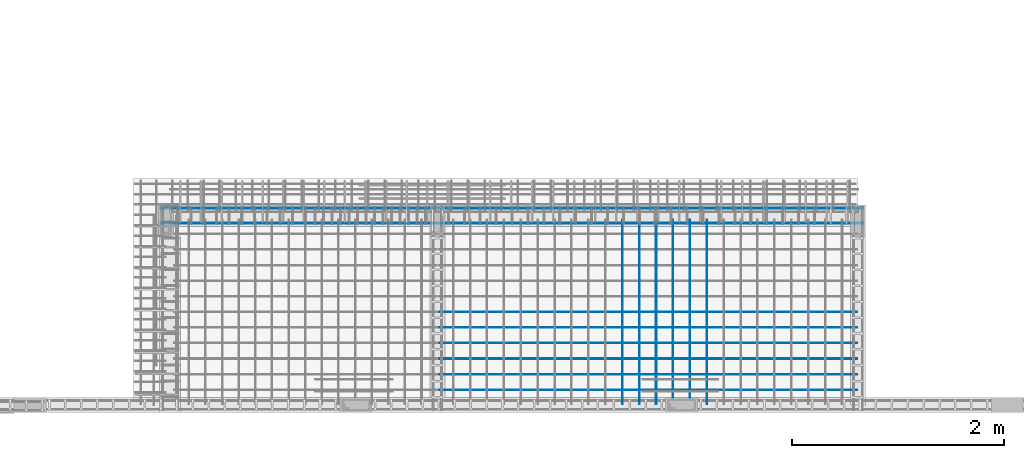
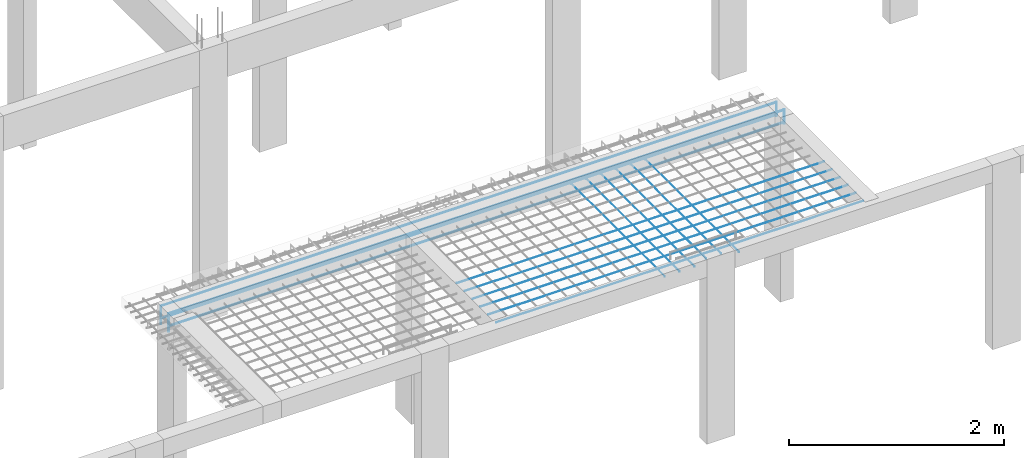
# One storey, part 40 of 236: 16 reinforcing bars.
"""IFC4 building model written with IfcOpenShell, lengths in centimetres."""

from ifc_helpers import new_model, entity, si_unit, derived_unit, frame, origin_with_axes, place, context, project, spatial, element, save


model = new_model("IFC4")

# Units and contexts
model_context = context("Model", 3, precision=1e-05, world=origin_with_axes(), identifier="Body")
ifc_project = project(units=[si_unit("LENGTHUNIT", "METRE", prefix="CENTI"), si_unit("VOLUMEUNIT", "CUBIC_METRE"), si_unit("AREAUNIT", "SQUARE_METRE"), si_unit("POWERUNIT", "WATT"), si_unit("LUMINOUSFLUXUNIT", "LUMEN"), si_unit("ELECTRICCURRENTUNIT", "AMPERE"), si_unit("PRESSUREUNIT", "PASCAL", prefix="KILO"), si_unit("MASSUNIT", "GRAM", prefix="KILO"), si_unit("PLANEANGLEUNIT", "RADIAN"), derived_unit("VOLUMETRICFLOWRATEUNIT", [(si_unit("LENGTHUNIT", "METRE"), 3), (si_unit("TIMEUNIT", "SECOND"), -1)])], contexts=[model_context])

# Site, building, storey
site_placement = place(None, frame((-4000.0, 0.0, 0.0), z_axis=(0.0, 0.0, 1.0), x_axis=(1.0, 0.0, 0.0)))
site = spatial("IfcSite", under=ifc_project, at=site_placement, Name="PADRÃO")
building_placement = place(site_placement, frame((0.0, 0.0, -14.0)))
building = spatial("IfcBuilding", under=site, at=building_placement, Name="CRECHE PRÉ-ESCOLA TIPO 2")
placement_1 = place(building_placement, origin_with_axes())
placement_2 = place(placement_1, frame((0.0, 0.0, 30.0), z_axis=(0.0, 0.0, 1.0), x_axis=(1.0, 0.0, 0.0)))
storey_placement = place(placement_2, frame((0.0, 0.0, 310.0), z_axis=(0.0, 0.0, 1.0), x_axis=(1.0, 0.0, 0.0)))
storey = spatial("IfcBuildingStorey", under=building, at=storey_placement, Name="TERREO", CompositionType="ELEMENT", Elevation=326.0)

# Reinforcing bars
for number, where, z_axis, x_axis, name in (
    (1, (3091.52125, 96.75, -109.5), (0.0, 0.0, 1.0), (1.0, 0.0, 0.0), "L3 - Inferior X"),
    (2, (3027.77125, 96.75, -109.5), (0.0, 0.0, 1.0), (1.0, 0.0, 0.0), "L3 - Inferior X"),
    (3, (3011.83375, 96.75, -109.5), (0.0, 0.0, 1.0), (1.0, 0.0, 0.0), "L3 - Inferior X"),
    (4, (3043.70875, 96.75, -109.5), (0.0, 0.0, 1.0), (1.0, 0.0, 0.0), "L3 - Inferior X"),
):
    element("IfcReinforcingBar", number, at=place(storey_placement, frame(where, z_axis=z_axis, x_axis=x_axis)), inside=storey, Name=name, BarLength=0.0, CrossSectionArea=1.9634954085e-05, NominalDiameter=0.5, PredefinedType="MAIN", context=model_context, shape_type="AdvancedSweptSolid", body=[
        entity("IfcSweptDiskSolid", entity("IfcCompositeCurve", [entity("IfcCompositeCurveSegment", "CONTINUOUS", True, entity("IfcPolyline", [entity("IfcCartesianPoint", [0.0, -86.75, -0.25]), entity("IfcCartesianPoint", [0.0, 86.75, -0.25])]))], False), 0.25),
    ])
for number, where, z_axis, x_axis, name in (
    (5, (3059.64625, 99.75, -109.5), (0.0, 0.0, 1.0), (1.0, 0.0, 0.0), "L3 - Inferior X"),
    (6, (3075.58375, 99.75, -109.5), (0.0, 0.0, 1.0), (1.0, 0.0, 0.0), "L3 - Inferior X"),
):
    element("IfcReinforcingBar", number, at=place(storey_placement, frame(where, z_axis=z_axis, x_axis=x_axis)), inside=storey, Name=name, BarLength=0.0, CrossSectionArea=1.9634954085e-05, NominalDiameter=0.5, PredefinedType="MAIN", context=model_context, shape_type="AdvancedSweptSolid", body=[
        entity("IfcSweptDiskSolid", entity("IfcCompositeCurve", [entity("IfcCompositeCurveSegment", "CONTINUOUS", True, entity("IfcPolyline", [entity("IfcCartesianPoint", [0.0, -83.75, -0.25]), entity("IfcCartesianPoint", [0.0, 83.75, -0.25])]))], False), 0.25),
    ])
for number, where, z_axis, x_axis, name in (
    (7, (3035.735, 23.3409090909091, -109.0), (0.0, 0.0, 1.0), (1.0, 0.0, 0.0), "L3 - Inferior Y"),
    (8, (3035.735, 67.3863636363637, -109.0), (0.0, 0.0, 1.0), (1.0, 0.0, 0.0), "L3 - Inferior Y"),
    (9, (3035.735, 82.0681818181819, -109.0), (0.0, 0.0, 1.0), (1.0, 0.0, 0.0), "L3 - Inferior Y"),
    (10, (3035.735, 96.75, -109.0), (0.0, 0.0, 1.0), (1.0, 0.0, 0.0), "L3 - Inferior Y"),
    (11, (3035.735, 52.7045454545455, -109.0), (0.0, 0.0, 1.0), (1.0, 0.0, 0.0), "L3 - Inferior Y"),
    (12, (3035.735, 38.0227272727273, -109.0), (0.0, 0.0, 1.0), (1.0, 0.0, 0.0), "L3 - Inferior Y"),
):
    element("IfcReinforcingBar", number, at=place(storey_placement, frame(where, z_axis=z_axis, x_axis=x_axis)), inside=storey, Name=name, BarLength=0.0, CrossSectionArea=1.9634954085e-05, NominalDiameter=0.5, PredefinedType="MAIN", context=model_context, shape_type="AdvancedSweptSolid", body=[
        entity("IfcSweptDiskSolid", entity("IfcCompositeCurve", [entity("IfcCompositeCurveSegment", "CONTINUOUS", True, entity("IfcPolyline", [entity("IfcCartesianPoint", [197.245, 0.0, -0.25]), entity("IfcCartesianPoint", [-197.245, 0.0, -0.25])]))], False), 0.25),
    ])
for number, where, z_axis, x_axis, name in (
    (13, (2907.7231248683, 194.6, -107.1), (0.0, 0.0, 1.0), (1.0, 0.0, 0.0), "V322 - Longitudinal inferior"),
    (14, (2907.7231248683, 180.4, -107.1), (0.0, 0.0, 1.0), (1.0, 0.0, 0.0), "V322 - Longitudinal inferior"),
):
    element("IfcReinforcingBar", number, at=place(storey_placement, frame(where, z_axis=z_axis, x_axis=x_axis)), inside=storey, Name=name, BarLength=0.0, CrossSectionArea=5.0265482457e-05, NominalDiameter=0.8, PredefinedType="MAIN", context=model_context, shape_type="AdvancedSweptSolid", body=[
        entity("IfcSweptDiskSolid", entity("IfcCompositeCurve", [entity("IfcCompositeCurveSegment", "CONTINUOUS", True, entity("IfcPolyline", [entity("IfcCartesianPoint", [-330.863124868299, 0.0, 0.0]), entity("IfcCartesianPoint", [-330.863124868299, 0.0, -10.0])])), entity("IfcCompositeCurveSegment", "CONTINUOUS", True, entity("IfcPolyline", [entity("IfcCartesianPoint", [-330.863124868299, 0.0, -10.0]), entity("IfcCartesianPoint", [331.266875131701, 0.0, -10.0])]))], False), 0.4),
    ])
for number, where, z_axis, x_axis, name in (
    (15, (2907.725, 180.4, -102.496249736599), (0.0, 0.0, 1.0), (1.0, 0.0, 0.0), "V322 - Longitudinal superior"),
    (16, (2907.725, 194.6, -102.496249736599), (0.0, 0.0, 1.0), (1.0, 0.0, 0.0), "V322 - Longitudinal superior"),
):
    element("IfcReinforcingBar", number, at=place(storey_placement, frame(where, z_axis=z_axis, x_axis=x_axis)), inside=storey, Name=name, BarLength=0.0, CrossSectionArea=5.0265482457e-05, NominalDiameter=0.8, PredefinedType="MAIN", context=model_context, shape_type="AdvancedSweptSolid", body=[
        entity("IfcSweptDiskSolid", entity("IfcCompositeCurve", [entity("IfcCompositeCurveSegment", "CONTINUOUS", True, entity("IfcPolyline", [entity("IfcCartesianPoint", [-330.865, 0.0, -21.0841562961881]), entity("IfcCartesianPoint", [-330.865, 0.0, -0.403750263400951])])), entity("IfcCompositeCurveSegment", "CONTINUOUS", True, entity("IfcPolyline", [entity("IfcCartesianPoint", [-330.865, 0.0, -0.403750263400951]), entity("IfcCartesianPoint", [330.865, 0.0, -0.403750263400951])])), entity("IfcCompositeCurveSegment", "CONTINUOUS", True, entity("IfcPolyline", [entity("IfcCartesianPoint", [330.865, 0.0, -0.403750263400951]), entity("IfcCartesianPoint", [330.865, 0.0, -16.3306878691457])]))], False), 0.4),
    ])

save(model, "model.ifc")
